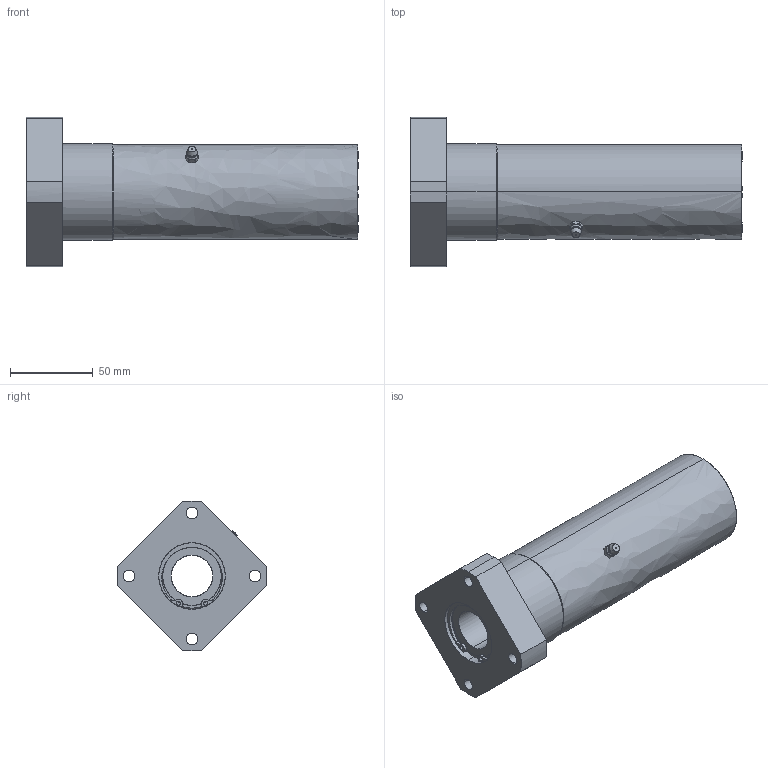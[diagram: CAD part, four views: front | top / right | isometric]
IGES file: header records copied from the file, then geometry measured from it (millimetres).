
Global section: file name: No Iges File Name specified; native system: AutoDesk Inventor R10; preprocessor: AutoDesk Inventor Iges Exporter R10; author: No Author specified; organization: No Organization specified; date: 20101214.140649; units: millimetre
Bounding box: 200 x 89.99 x 90 mm (x, y, z)
Surface area: 71406.9 mm2 (no closed solid volume)
Topology: 0 solids, 0 shells, 159 faces, 1121 edges, 1119 vertices
Faces by surface type: bspline 159
